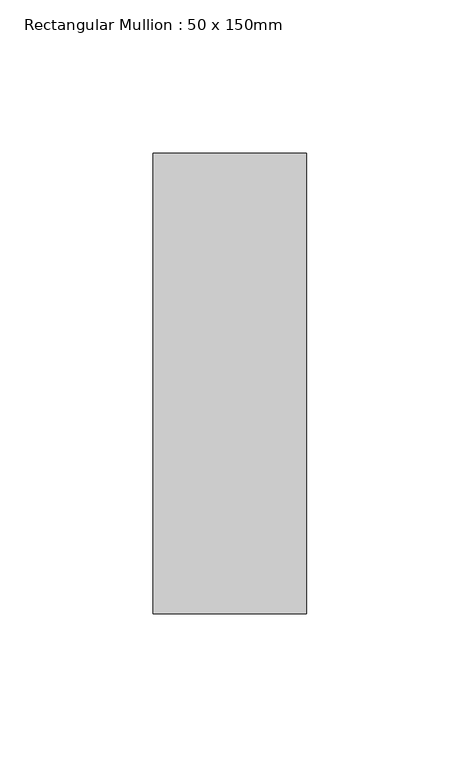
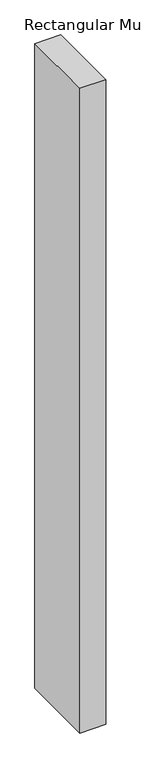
"""IFC4 building model written with IfcOpenShell, lengths in millimetres: member geometry, Rectangular Mullion : 50 x 150mm."""

from ifc_helpers import new_model, si_unit, frame, origin, place, context, project, spatial, polyline, outline, extrude, source, transform, mapped, element, save


def rectangular_mullion_50_x_150mm_b0d062b7(model_context):
    return source(origin(), model_context, "Body", "SweptSolid", [
        extrude(outline(polyline([(0.0, 75.0), (0.0, -75.0), (-50.0, -75.0), (-50.0, 75.0), (0.0, 75.0)])), frame((0.0, 0.0, -1312.2316891), z_axis=(0.0, 0.0, 1.0), x_axis=(1.0, 0.0, 0.0)), (0.0, 0.0, 1.0), 1312.2316891),
    ])


if __name__ == "__main__":
    model = new_model("IFC4")
    model_context = context("Model", 3, world=origin())
    ifc_project = project(units=[si_unit("LENGTHUNIT", "METRE", prefix="MILLI")], contexts=[model_context])
    site = spatial("IfcSite", under=ifc_project)
    building = spatial("IfcBuilding", under=site)
    placement = place(None, origin())
    rectangular_mullion_50_x_150mm_shape = rectangular_mullion_50_x_150mm_b0d062b7(model_context)
    element("IfcMember", 1, ObjectType="Rectangular Mullion : 50 x 150mm", at=placement, inside=building, context=model_context, shape_type="MappedRepresentation", body=[
        mapped(rectangular_mullion_50_x_150mm_shape, transform((0.0, 0.0, 0.0), x_axis=(1.0, 0.0, 0.0), y_axis=(0.0, 1.0, 0.0), z_axis=(0.0, 0.0, 1.0))),
    ])
    save(model, "model.ifc")
